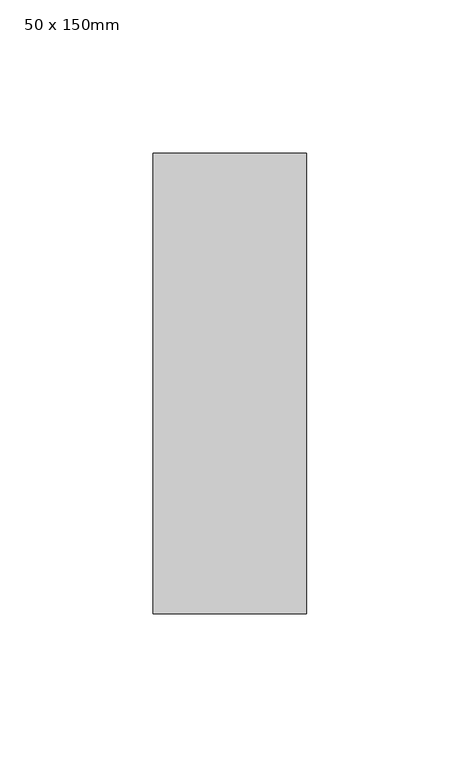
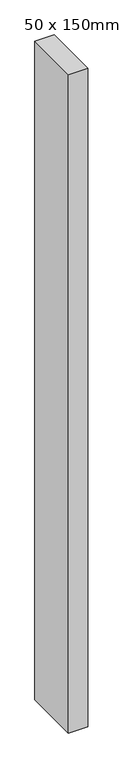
"""IFC4 building model written with IfcOpenShell, lengths in millimetres: member geometry, 矩形竖梃 : 50 x 150mm."""

import ifcopenshell
import ifcopenshell.guid

model = None  # the IFC model being written
_history = None  # IfcOwnerHistory: only IFC2X3 demands one
_inside = {}  # id of a spatial element -> (the spatial element, [elements in it])
_under = {}  # id of a project, library or spatial element -> (it, [spatial elements below it])
_declared = {}  # id of a project -> (the project, [libraries it declares])
_typed = {}  # id of a type object -> (the type object, [elements of that type])
_made_of = {}  # id of a material, layer set ... -> (it, [elements and type objects made of it])


def new_model(schema):
    """Start an empty IFC model of exactly this schema.

    Asked for "IFC4X3", IfcOpenShell would pick the latest addendum, in which some entities
    have other attributes; the version numbers below select the first issue.
    IFC2X3 requires an IfcOwnerHistory on every rooted entity: one is made here for all.
    """
    global model, _history
    if schema == "IFC4X3":
        model = ifcopenshell.file(schema_version=(4, 3, 0, 0))
    else:
        model = ifcopenshell.file(schema=schema)
    _inside.clear()
    _under.clear()
    _declared.clear()
    _typed.clear()
    _made_of.clear()
    _history = None
    if model.schema == "IFC2X3":
        org = make("IfcOrganization", Name="unknown")
        user = make(
            "IfcPersonAndOrganization",
            ThePerson=make("IfcPerson", FamilyName="unknown"),
            TheOrganization=org,
        )
        app = make(
            "IfcApplication",
            ApplicationDeveloper=org,
            Version="unknown",
            ApplicationFullName="unknown",
            ApplicationIdentifier="unknown",
        )
        _history = make(
            "IfcOwnerHistory",
            OwningUser=user,
            OwningApplication=app,
            ChangeAction="ADDED",
            CreationDate=0,
        )
    return model


def make(cls, **values):
    """One entity of the class cls with the attributes given. An attribute that is None is left unset."""
    return model.create_entity(
        cls, **{name: value for name, value in values.items() if value is not None}
    )


def rooted(cls, **values):
    """An entity with a GlobalId (a new one), such as an element, a storey or a relation."""
    return make(cls, GlobalId=ifcopenshell.guid.new(), OwnerHistory=_history, **values)


def si_unit(unit_type, name, prefix=None):
    """IfcSIUnit, for example si_unit("LENGTHUNIT", "METRE", prefix="MILLI")."""
    return make("IfcSIUnit", UnitType=unit_type, Prefix=prefix, Name=name)


def assignment(units):
    """IfcUnitAssignment: the units of a project."""
    return None if units is None else make("IfcUnitAssignment", Units=units)


def point(xyz):
    """IfcCartesianPoint."""
    return None if xyz is None else make("IfcCartesianPoint", Coordinates=xyz)


def direction(xyz):
    """IfcDirection."""
    return None if xyz is None else make("IfcDirection", DirectionRatios=xyz)


def frame(location, z_axis=None, x_axis=None):
    """IfcAxis2Placement3D, a coordinate frame: its origin and axes. An axis left out is left unset."""
    return make(
        "IfcAxis2Placement3D",
        Location=point(location),
        Axis=direction(z_axis),
        RefDirection=direction(x_axis),
    )


def origin():
    """The frame at (0, 0, 0) with its axes left unset."""
    return frame((0.0, 0.0, 0.0))


def place(relative_to, where):
    """IfcLocalPlacement: puts the frame where relative to a parent placement (None: the world)."""
    return make(
        "IfcLocalPlacement", PlacementRelTo=relative_to, RelativePlacement=where
    )


def context(
    kind, dimensions, precision=None, world=None, true_north=None, identifier=None
):
    """IfcGeometricRepresentationContext, for example the 3D "Model" context."""
    return make(
        "IfcGeometricRepresentationContext",
        ContextIdentifier=identifier,
        ContextType=kind,
        CoordinateSpaceDimension=dimensions,
        Precision=precision,
        WorldCoordinateSystem=world,
        TrueNorth=true_north,
    )


def project(units=None, contexts=None):
    """IfcProject with its units and contexts."""
    return rooted(
        "IfcProject",
        Name="project",
        RepresentationContexts=contexts,
        UnitsInContext=assignment(units),
    )


def spatial(cls, under=None, at=None, **own):
    """A site, building, storey or space (cls), placed at a placement, below another one or the project."""
    s = rooted(cls, ObjectPlacement=at, **own)
    if under is not None:
        _under.setdefault(under.id(), (under, []))[1].append(s)
    return s


def polyline(points):
    """IfcPolyline through the points."""
    return make("IfcPolyline", Points=[point(p) for p in points])


def outline(outer, holes=None, kind="AREA"):
    """IfcArbitraryClosedProfileDef: a profile drawn as a closed curve; with holes, ...WithVoids."""
    if holes is None:
        return make("IfcArbitraryClosedProfileDef", ProfileType=kind, OuterCurve=outer)
    return make(
        "IfcArbitraryProfileDefWithVoids",
        ProfileType=kind,
        OuterCurve=outer,
        InnerCurves=holes,
    )


def extrude(swept, where, along, depth):
    """IfcExtrudedAreaSolid: the profile swept, set in the frame where, extruded along a direction by depth."""
    return make(
        "IfcExtrudedAreaSolid",
        SweptArea=swept,
        Position=where,
        ExtrudedDirection=direction(along),
        Depth=depth,
    )


def shape(context_of_items, identifier, shape_type, items):
    """IfcShapeRepresentation: the items that make up one representation, for example the "Body"."""
    return make(
        "IfcShapeRepresentation",
        ContextOfItems=context_of_items,
        RepresentationIdentifier=identifier,
        RepresentationType=shape_type,
        Items=items,
    )


def source(mapping_origin, context_of_items, identifier, shape_type, items):
    """IfcRepresentationMap: a shape defined once, which mapped items show again and again."""
    return make(
        "IfcRepresentationMap",
        MappingOrigin=mapping_origin,
        MappedRepresentation=shape(context_of_items, identifier, shape_type, items),
    )


def transform(
    local_origin,
    x_axis=None,
    y_axis=None,
    z_axis=None,
    scale=None,
    scale2=None,
    scale3=None,
    uniform=True,
):
    """IfcCartesianTransformationOperator3D, or its non-uniform kind. x_axis, y_axis, z_axis: its Axis1, 2, 3."""
    if uniform:
        return make(
            "IfcCartesianTransformationOperator3D",
            Axis1=direction(x_axis),
            Axis2=direction(y_axis),
            LocalOrigin=point(local_origin),
            Scale=scale,
            Axis3=direction(z_axis),
        )
    return make(
        "IfcCartesianTransformationOperator3DnonUniform",
        Axis1=direction(x_axis),
        Axis2=direction(y_axis),
        LocalOrigin=point(local_origin),
        Scale=scale,
        Axis3=direction(z_axis),
        Scale2=scale2,
        Scale3=scale3,
    )


def mapped(mapping_source, mapping_target):
    """IfcMappedItem: shows the shape of a source again, moved by a transform."""
    return make(
        "IfcMappedItem", MappingSource=mapping_source, MappingTarget=mapping_target
    )


def made_of(thing, what):
    """Note that an element or type object is made of a material, layer set ...; save() writes the relation."""
    if what is not None:
        _made_of.setdefault(what.id(), (what, []))[1].append(thing)
    return thing


def element(
    cls,
    number,
    at=None,
    inside=None,
    cuts=None,
    type_object=None,
    material=None,
    context=None,
    identifier="Body",
    shape_type=None,
    held_by="IfcProductDefinitionShape",
    body=None,
    shapes=None,
    **own,
):
    """One element of the class cls, such as IfcWall. Its Tag is "e" and its number.

    at: its placement. inside: the storey or other place that contains it. cuts: it is an
    opening in that element (IfcRelVoidsElement). A single representation is given by context,
    identifier, shape_type and body (its items); several are given by shapes. held_by: the class
    of the entity that holds the representations. save() writes the other relations.
    """
    e = rooted(cls, Tag="e%d" % number, ObjectPlacement=at, **own)
    if body is not None:
        shapes = [shape(context, identifier, shape_type, body)]
    if shapes is not None:
        e.Representation = make(held_by, Representations=shapes)
    if inside is not None:
        _inside.setdefault(inside.id(), (inside, []))[1].append(e)
    if cuts is not None:
        rooted(
            "IfcRelVoidsElement", RelatingBuildingElement=cuts, RelatedOpeningElement=e
        )
    if type_object is not None:
        _typed.setdefault(type_object.id(), (type_object, []))[1].append(e)
    return made_of(e, material)


def aggregate(whole, parts):
    """IfcRelAggregates: a whole, such as a stair, and the parts it consists of."""
    return rooted("IfcRelAggregates", RelatingObject=whole, RelatedObjects=parts)


def save(model, path):
    """Write the relations noted so far, then the file.

    IfcRelAggregates (storeys below a building ...), IfcRelContainedInSpatialStructure (elements
    in a storey), IfcRelDefinesByType, IfcRelAssociatesMaterial and IfcRelDeclares: one each for
    every whole, place, type object, material and project.
    """
    for whole, parts in _under.values():
        aggregate(whole, parts)
    for where, things in _inside.values():
        rooted(
            "IfcRelContainedInSpatialStructure",
            RelatedElements=things,
            RelatingStructure=where,
        )
    for kind, things in _typed.values():
        rooted("IfcRelDefinesByType", RelatedObjects=things, RelatingType=kind)
    for what, things in _made_of.values():
        rooted("IfcRelAssociatesMaterial", RelatedObjects=things, RelatingMaterial=what)
    for by, libraries in _declared.values():
        rooted("IfcRelDeclares", RelatingContext=by, RelatedDefinitions=libraries)
    model.write(path)


def member_50_x_150mm_dc2b1c3d(model_context):
    return source(origin(), model_context, "Body", "SweptSolid", [
        extrude(outline(polyline([(0.0, 75.0), (0.0, -75.0), (-50.0, -75.0), (-50.0, 75.0), (0.0, 75.0)])), frame((0.0, 0.0, -1800.0), z_axis=(0.0, 0.0, 1.0), x_axis=(1.0, 0.0, 0.0)), (0.0, 0.0, 1.0), 1800.0),
    ])


if __name__ == "__main__":
    model = new_model("IFC4")
    model_context = context("Model", 3, world=origin())
    ifc_project = project(units=[si_unit("LENGTHUNIT", "METRE", prefix="MILLI")], contexts=[model_context])
    site = spatial("IfcSite", under=ifc_project)
    building = spatial("IfcBuilding", under=site)
    placement = place(None, origin())
    member_50_x_150mm_shape = member_50_x_150mm_dc2b1c3d(model_context)
    element("IfcMember", 1, ObjectType="矩形竖梃 : 50 x 150mm", at=placement, inside=building, context=model_context, shape_type="MappedRepresentation", body=[
        mapped(member_50_x_150mm_shape, transform((0.0, 0.0, 0.0), x_axis=(1.0, 0.0, 0.0), y_axis=(0.0, 1.0, 0.0), z_axis=(0.0, 0.0, 1.0))),
    ])
    save(model, "model.ifc")
